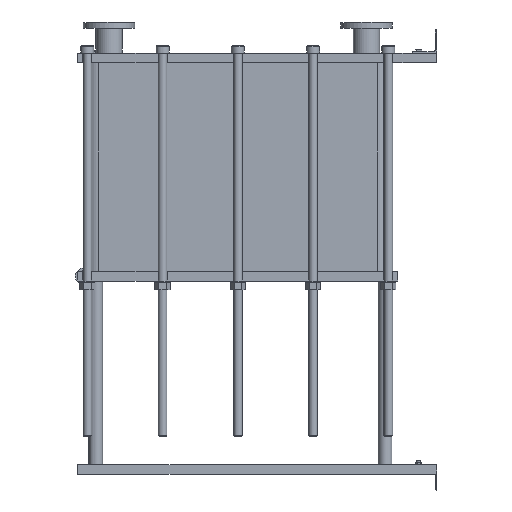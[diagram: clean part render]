
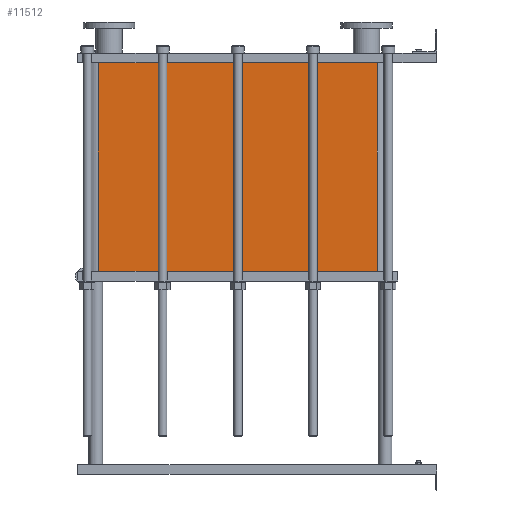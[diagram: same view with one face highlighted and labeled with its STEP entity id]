
A CAD part, left-side view. The second image highlights one B-rep face of the part: STEP entity #11512.
In plain terms, the highlighted planar face has unit normal (-1, 0, 0).
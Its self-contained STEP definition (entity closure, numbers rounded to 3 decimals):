
#1129=LINE('',#23232,#2102);
#1130=LINE('',#23236,#2103);
#1131=LINE('',#23238,#2104);
#1132=LINE('',#23239,#2105);
#2102=VECTOR('',#15887,10.);
#2103=VECTOR('',#15892,10.);
#2104=VECTOR('',#15893,10.);
#2105=VECTOR('',#15894,10.);
#3267=FACE_OUTER_BOUND('',#4093,.T.);
#4093=EDGE_LOOP('',(#10103,#10104,#10105,#10106));
#5642=VERTEX_POINT('',#23229);
#5643=VERTEX_POINT('',#23231);
#5644=VERTEX_POINT('',#23235);
#5645=VERTEX_POINT('',#23237);
#7159=EDGE_CURVE('',#5643,#5642,#1129,.T.);
#7161=EDGE_CURVE('',#5642,#5644,#1130,.T.);
#7162=EDGE_CURVE('',#5645,#5644,#1131,.T.);
#7163=EDGE_CURVE('',#5645,#5643,#1132,.T.);
#10103=ORIENTED_EDGE('',*,*,#7161,.T.);
#10104=ORIENTED_EDGE('',*,*,#7162,.F.);
#10105=ORIENTED_EDGE('',*,*,#7163,.T.);
#10106=ORIENTED_EDGE('',*,*,#7159,.T.);
#10857=PLANE('',#12751);
#11512=ADVANCED_FACE('',(#3267),#10857,.T.);
#12751=AXIS2_PLACEMENT_3D('',#23234,#15890,#15891);
#15887=DIRECTION('',(0.,0.,-1.));
#15890=DIRECTION('center_axis',(-1.,0.,0.));
#15891=DIRECTION('ref_axis',(0.,1.,0.));
#15892=DIRECTION('',(0.,-1.,0.));
#15893=DIRECTION('',(0.,0.,-1.));
#15894=DIRECTION('',(0.,1.,0.));
#23229=CARTESIAN_POINT('',(-200.,1414.,-872.85));
#23231=CARTESIAN_POINT('',(-200.,1414.,0.));
#23232=CARTESIAN_POINT('',(-200.,1414.,0.));
#23234=CARTESIAN_POINT('Origin',(-200.,248.,0.));
#23235=CARTESIAN_POINT('',(-200.,248.,-872.85));
#23236=CARTESIAN_POINT('',(-200.,539.5,-872.85));
#23237=CARTESIAN_POINT('',(-200.,248.,0.));
#23238=CARTESIAN_POINT('',(-200.,248.,0.));
#23239=CARTESIAN_POINT('',(-200.,248.,0.));
